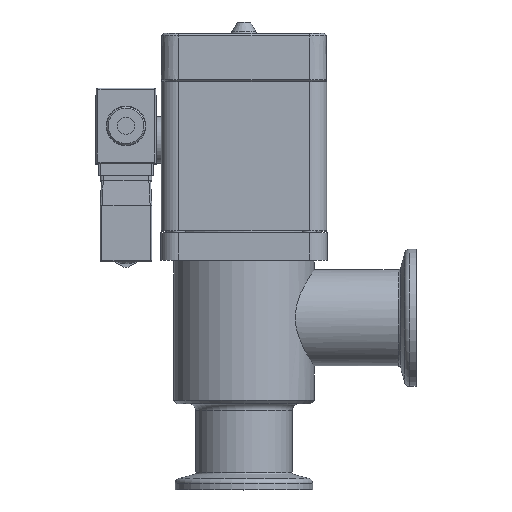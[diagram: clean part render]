
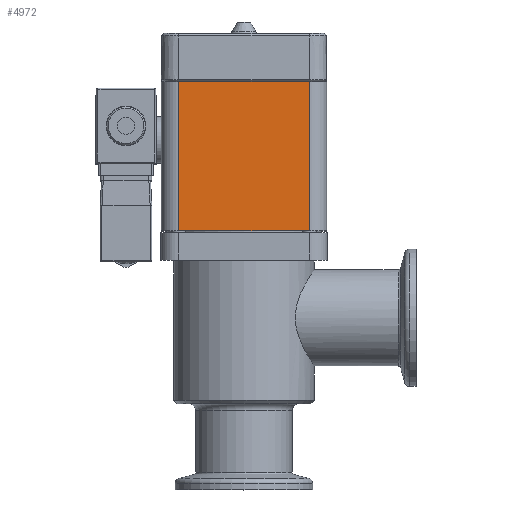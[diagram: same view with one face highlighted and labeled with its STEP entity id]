
A CAD part, top view. The second image highlights one B-rep face of the part: STEP entity #4972.
In plain terms, the highlighted planar face has unit normal (0, 0, 1) as drawn and (0, 0, -1) by its records, which use the part's own axes.
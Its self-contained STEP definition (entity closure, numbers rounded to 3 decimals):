
#2561=FACE_OUTER_BOUND('',#6327,.T.);
#2942=PLANE('',#12587);
#3434=LINE('',#17347,#4242);
#3439=LINE('',#17383,#4247);
#3440=LINE('',#17395,#4248);
#3441=LINE('',#17397,#4249);
#4242=VECTOR('',#14150,1.);
#4247=VECTOR('',#14183,1.);
#4248=VECTOR('',#14196,1.);
#4249=VECTOR('',#14199,1.);
#4972=ADVANCED_FACE('',(#2561),#2942,.F.);
#6327=EDGE_LOOP('',(#7734,#7735,#7736,#7737));
#7734=ORIENTED_EDGE('',*,*,#10943,.T.);
#7735=ORIENTED_EDGE('',*,*,#10950,.F.);
#7736=ORIENTED_EDGE('',*,*,#10925,.F.);
#7737=ORIENTED_EDGE('',*,*,#10949,.T.);
#9862=VERTEX_POINT('',#17346);
#9863=VERTEX_POINT('',#17348);
#9879=VERTEX_POINT('',#17382);
#9880=VERTEX_POINT('',#17384);
#10925=EDGE_CURVE('',#9862,#9863,#3434,.T.);
#10943=EDGE_CURVE('',#9880,#9879,#3439,.T.);
#10949=EDGE_CURVE('',#9862,#9880,#3440,.T.);
#10950=EDGE_CURVE('',#9863,#9879,#3441,.T.);
#12587=AXIS2_PLACEMENT_3D('',#17398,#14200,#14201);
#14150=DIRECTION('',(-1.,0.,0.));
#14183=DIRECTION('',(-1.,0.,0.));
#14196=DIRECTION('',(0.,-1.,0.));
#14199=DIRECTION('',(0.,-1.,0.));
#14200=DIRECTION('',(0.,0.,1.));
#14201=DIRECTION('',(1.,0.,0.));
#17346=CARTESIAN_POINT('',(19.,43.3,-24.));
#17347=CARTESIAN_POINT('',(19.,43.3,-24.));
#17348=CARTESIAN_POINT('',(-19.,43.3,-24.));
#17382=CARTESIAN_POINT('',(-19.,0.,-24.));
#17383=CARTESIAN_POINT('',(19.,0.,-24.));
#17384=CARTESIAN_POINT('',(19.,0.,-24.));
#17395=CARTESIAN_POINT('',(19.,43.3,-24.));
#17397=CARTESIAN_POINT('',(-19.,43.3,-24.));
#17398=CARTESIAN_POINT('',(19.,43.3,-24.));
